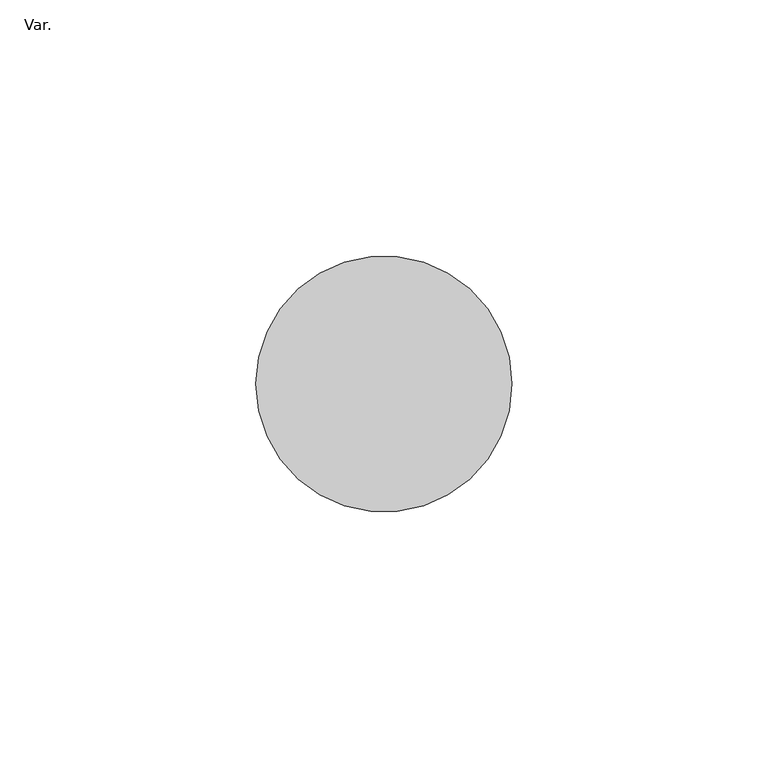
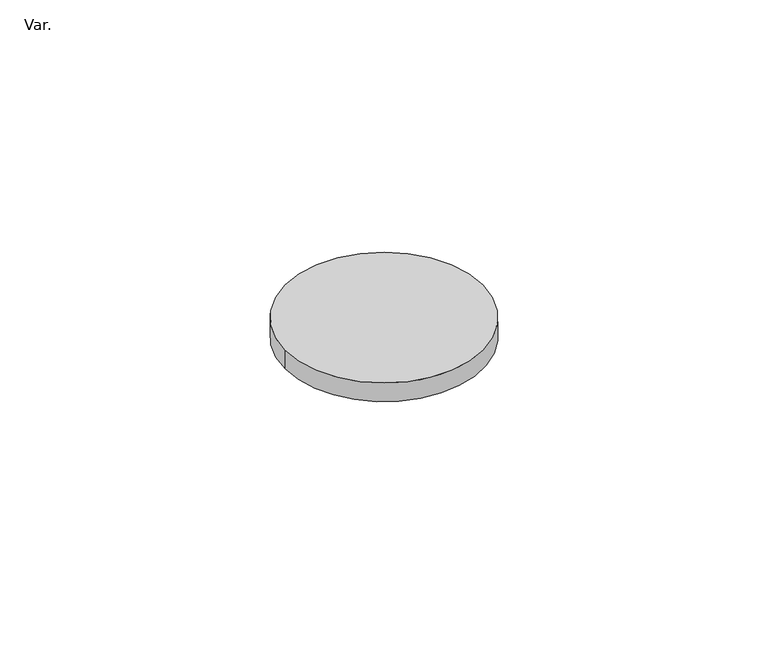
"""IFC4 building model written with IfcOpenShell, lengths in millimetres: pipe fitting geometry, PlastigamaWavin_Unionesdetubería_SanitariaCaucho : Var.."""

from ifc_helpers import new_model, si_unit, point, origin, origin_with_axes, origin_2d, place, context, project, spatial, circle_curve, trimmed, segment, composite_curve, outline, extrude, source, transform, mapped, element, save


def var_fe454d0c(model_context):
    return source(origin(), model_context, "Body", "SweptSolid", [
        extrude(outline(composite_curve([segment(trimmed(circle_curve(origin_2d(), 25.0), [point((-25.0, 0.0))], [point((25.0, 0.0))], False, "CARTESIAN"), True, "CONTINUOUS"), segment(trimmed(circle_curve(origin_2d(), 25.0), [point((25.0, 0.0))], [point((-25.0, 0.0))], False, "CARTESIAN"), True, "CONTINUOUS")], self_intersect=False)), origin_with_axes(), (0.0, 0.0, 1.0), 5.0),
    ])


if __name__ == "__main__":
    model = new_model("IFC4")
    model_context = context("Model", 3, world=origin())
    ifc_project = project(units=[si_unit("LENGTHUNIT", "METRE", prefix="MILLI")], contexts=[model_context])
    site = spatial("IfcSite", under=ifc_project)
    building = spatial("IfcBuilding", under=site)
    placement = place(None, origin())
    var_shape = var_fe454d0c(model_context)
    element("IfcPipeFitting", 1, ObjectType="PlastigamaWavin_Unionesdetubería_SanitariaCaucho : Var.", at=placement, inside=building, context=model_context, shape_type="MappedRepresentation", body=[
        mapped(var_shape, transform((0.0, 0.0, 0.0), x_axis=(1.0, 0.0, 0.0), y_axis=(0.0, 1.0, 0.0), z_axis=(0.0, 0.0, 1.0))),
    ])
    save(model, "model.ifc")
